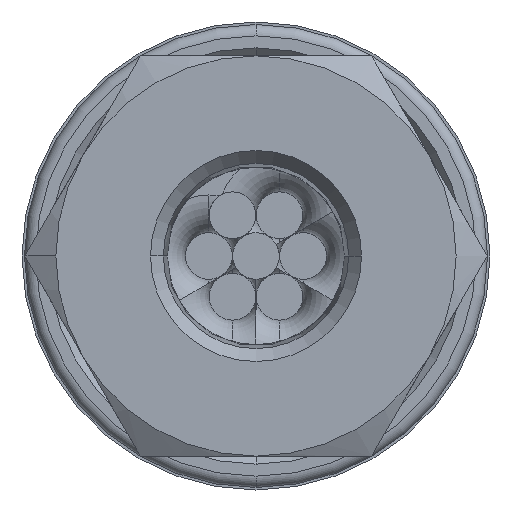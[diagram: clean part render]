
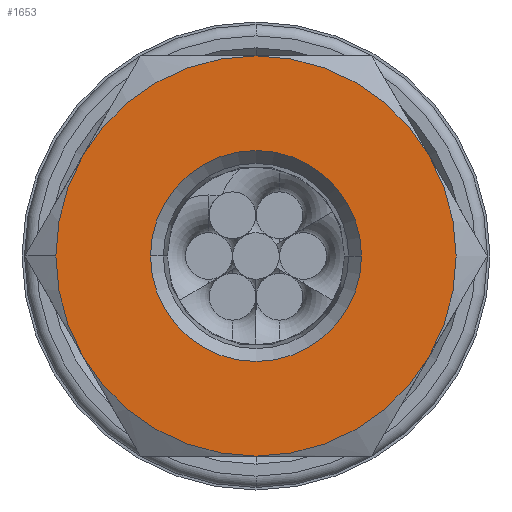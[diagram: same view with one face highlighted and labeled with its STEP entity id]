
A CAD part, front view. The second image highlights one B-rep face of the part: STEP entity #1653.
In plain terms, the highlighted planar face has unit normal (0, -1, 0).
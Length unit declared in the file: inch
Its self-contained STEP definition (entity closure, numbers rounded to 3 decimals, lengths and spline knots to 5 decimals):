
#18 = ORIENTED_EDGE ( 'NONE', *, *, #1313, .F. ) ;
#49 = AXIS2_PLACEMENT_3D ( 'NONE', #1363, #4083, #1019 ) ;
#374 = VERTEX_POINT ( 'NONE', #2976 ) ;
#392 = CARTESIAN_POINT ( 'NONE',  ( 0., -1.001, 0. ) ) ;
#420 = AXIS2_PLACEMENT_3D ( 'NONE', #3113, #1751, #3157 ) ;
#653 = EDGE_CURVE ( 'NONE', #4104, #990, #1353, .T. ) ;
#731 = PLANE ( 'NONE',  #1769 ) ;
#777 = DIRECTION ( 'NONE',  ( 1., 0., 0. ) ) ;
#811 = AXIS2_PLACEMENT_3D ( 'NONE', #1346, #2041, #2017 ) ;
#903 = CARTESIAN_POINT ( 'NONE',  ( 0.46013, -1.001, -0.26565 ) ) ;
#990 = VERTEX_POINT ( 'NONE', #3474 ) ;
#1019 = DIRECTION ( 'NONE',  ( -1., 0., 0. ) ) ;
#1079 = CARTESIAN_POINT ( 'NONE',  ( -0.28, -1.001, 0. ) ) ;
#1231 = EDGE_CURVE ( 'NONE', #2623, #2838, #1856, .T. ) ;
#1282 = EDGE_LOOP ( 'NONE', ( #2795, #3612, #4268, #4187, #1791, #4072, #1755 ) ) ;
#1292 = CIRCLE ( 'NONE', #420, 0.28 ) ;
#1313 = EDGE_CURVE ( 'NONE', #374, #3816, #1292, .T. ) ;
#1328 = FACE_OUTER_BOUND ( 'NONE', #1282, .T. ) ;
#1341 = CARTESIAN_POINT ( 'NONE',  ( -0.46013, -1.001, -0.26565 ) ) ;
#1346 = CARTESIAN_POINT ( 'NONE',  ( 0., -1.001, 0. ) ) ;
#1353 = CIRCLE ( 'NONE', #4059, 0.53131 ) ;
#1363 = CARTESIAN_POINT ( 'NONE',  ( 0., -1.001, 0. ) ) ;
#1415 = CIRCLE ( 'NONE', #3409, 0.53131 ) ;
#1429 = EDGE_CURVE ( 'NONE', #2018, #990, #3497, .T. ) ;
#1434 = AXIS2_PLACEMENT_3D ( 'NONE', #1480, #3779, #3429 ) ;
#1480 = CARTESIAN_POINT ( 'NONE',  ( 0., -1.001, 0. ) ) ;
#1609 = DIRECTION ( 'NONE',  ( 0., 1., 0. ) ) ;
#1653 = ADVANCED_FACE ( 'NONE', ( #4356, #1328 ), #731, .F. ) ;
#1654 = DIRECTION ( 'NONE',  ( 0., 1., 0. ) ) ;
#1674 = CARTESIAN_POINT ( 'NONE',  ( 0., -1.001, 0. ) ) ;
#1751 = DIRECTION ( 'NONE',  ( 0., -1., 0. ) ) ;
#1755 = ORIENTED_EDGE ( 'NONE', *, *, #1429, .T. ) ;
#1769 = AXIS2_PLACEMENT_3D ( 'NONE', #4046, #2685, #2709 ) ;
#1791 = ORIENTED_EDGE ( 'NONE', *, *, #3288, .F. ) ;
#1855 = VERTEX_POINT ( 'NONE', #3638 ) ;
#1856 = CIRCLE ( 'NONE', #2934, 0.53131 ) ;
#1984 = AXIS2_PLACEMENT_3D ( 'NONE', #2735, #3428, #2072 ) ;
#2005 = CIRCLE ( 'NONE', #3496, 0.53131 ) ;
#2017 = DIRECTION ( 'NONE',  ( 1., 0., 0. ) ) ;
#2018 = VERTEX_POINT ( 'NONE', #1341 ) ;
#2026 = VERTEX_POINT ( 'NONE', #3747 ) ;
#2041 = DIRECTION ( 'NONE',  ( 0., 1., 0. ) ) ;
#2072 = DIRECTION ( 'NONE',  ( 1., 0., 0. ) ) ;
#2269 = EDGE_CURVE ( 'NONE', #2026, #4104, #2005, .T. ) ;
#2272 = CARTESIAN_POINT ( 'NONE',  ( 0., -1.001, 0. ) ) ;
#2339 = CIRCLE ( 'NONE', #49, 0.28 ) ;
#2389 = EDGE_LOOP ( 'NONE', ( #2984, #18 ) ) ;
#2477 = CARTESIAN_POINT ( 'NONE',  ( 0., -1.001, 0. ) ) ;
#2623 = VERTEX_POINT ( 'NONE', #4311 ) ;
#2685 = DIRECTION ( 'NONE',  ( 0., 1., 0. ) ) ;
#2709 = DIRECTION ( 'NONE',  ( 1., 0., 0. ) ) ;
#2735 = CARTESIAN_POINT ( 'NONE',  ( 0., -1.001, 0. ) ) ;
#2795 = ORIENTED_EDGE ( 'NONE', *, *, #653, .F. ) ;
#2838 = VERTEX_POINT ( 'NONE', #3859 ) ;
#2934 = AXIS2_PLACEMENT_3D ( 'NONE', #1674, #1654, #4362 ) ;
#2976 = CARTESIAN_POINT ( 'NONE',  ( 0.28, -1.001, 0. ) ) ;
#2984 = ORIENTED_EDGE ( 'NONE', *, *, #3926, .F. ) ;
#3048 = EDGE_CURVE ( 'NONE', #2838, #2026, #3316, .T. ) ;
#3106 = DIRECTION ( 'NONE',  ( 1., 0., 0. ) ) ;
#3113 = CARTESIAN_POINT ( 'NONE',  ( 0., -1.001, 0. ) ) ;
#3157 = DIRECTION ( 'NONE',  ( -1., 0., 0. ) ) ;
#3288 = EDGE_CURVE ( 'NONE', #1855, #2623, #1415, .T. ) ;
#3316 = CIRCLE ( 'NONE', #811, 0.53131 ) ;
#3409 = AXIS2_PLACEMENT_3D ( 'NONE', #392, #3417, #3106 ) ;
#3417 = DIRECTION ( 'NONE',  ( 0., 1., 0. ) ) ;
#3428 = DIRECTION ( 'NONE',  ( 0., 1., 0. ) ) ;
#3429 = DIRECTION ( 'NONE',  ( -1., 0., 0. ) ) ;
#3474 = CARTESIAN_POINT ( 'NONE',  ( 0., -1.001, -0.53131 ) ) ;
#3496 = AXIS2_PLACEMENT_3D ( 'NONE', #2272, #1609, #3561 ) ;
#3497 = CIRCLE ( 'NONE', #1434, 0.53131 ) ;
#3561 = DIRECTION ( 'NONE',  ( 1., 0., 0. ) ) ;
#3612 = ORIENTED_EDGE ( 'NONE', *, *, #2269, .F. ) ;
#3638 = CARTESIAN_POINT ( 'NONE',  ( -0.53131, -1.001, 0. ) ) ;
#3747 = CARTESIAN_POINT ( 'NONE',  ( 0.46013, -1.001, 0.26565 ) ) ;
#3779 = DIRECTION ( 'NONE',  ( 0., -1., 0. ) ) ;
#3816 = VERTEX_POINT ( 'NONE', #1079 ) ;
#3830 = DIRECTION ( 'NONE',  ( 0., 1., 0. ) ) ;
#3859 = CARTESIAN_POINT ( 'NONE',  ( 0., -1.001, 0.53131 ) ) ;
#3897 = CIRCLE ( 'NONE', #1984, 0.53131 ) ;
#3926 = EDGE_CURVE ( 'NONE', #3816, #374, #2339, .T. ) ;
#4046 = CARTESIAN_POINT ( 'NONE',  ( 0., -1.001, 0. ) ) ;
#4059 = AXIS2_PLACEMENT_3D ( 'NONE', #2477, #3830, #777 ) ;
#4072 = ORIENTED_EDGE ( 'NONE', *, *, #4164, .F. ) ;
#4083 = DIRECTION ( 'NONE',  ( 0., -1., 0. ) ) ;
#4104 = VERTEX_POINT ( 'NONE', #903 ) ;
#4164 = EDGE_CURVE ( 'NONE', #2018, #1855, #3897, .T. ) ;
#4187 = ORIENTED_EDGE ( 'NONE', *, *, #1231, .F. ) ;
#4268 = ORIENTED_EDGE ( 'NONE', *, *, #3048, .F. ) ;
#4311 = CARTESIAN_POINT ( 'NONE',  ( -0.46013, -1.001, 0.26565 ) ) ;
#4356 = FACE_BOUND ( 'NONE', #2389, .T. ) ;
#4362 = DIRECTION ( 'NONE',  ( 1., 0., 0. ) ) ;
